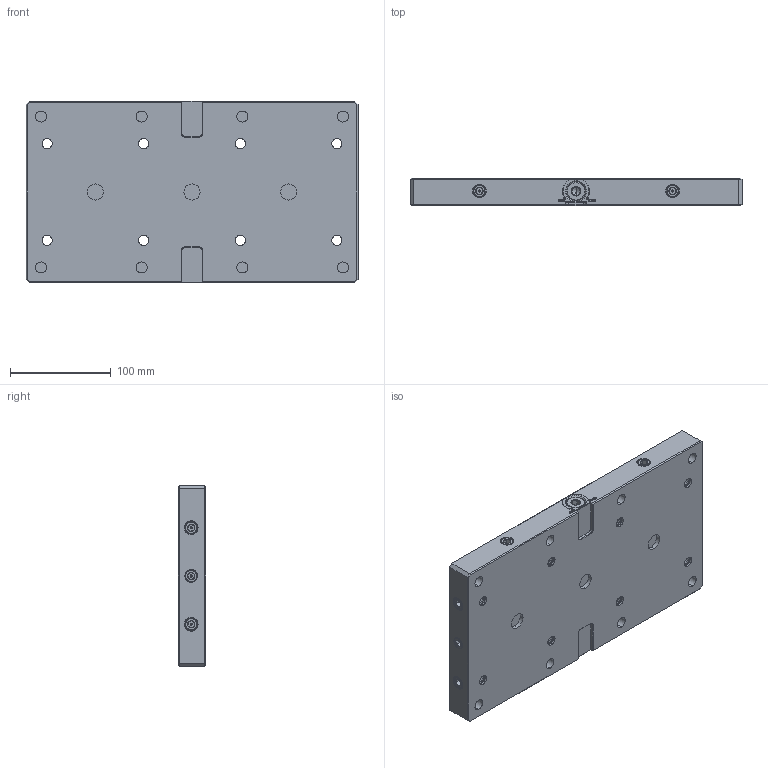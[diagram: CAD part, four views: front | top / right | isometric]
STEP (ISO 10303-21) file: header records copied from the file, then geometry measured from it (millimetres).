
FILE_DESCRIPTION((''),'2;1');
FILE_NAME('TI_WH_96ZPS_S330DNP001_ASM','2026-06-08T13:42:36',('Admin'),(''),'CREO PARAMETRIC BY PTC INC, 2025010','CREO PARAMETRIC BY PTC INC, 2025010','');
FILE_SCHEMA(('CONFIG_CONTROL_DESIGN'));
Length unit declared in the file: millimetre
Products named in the file (24): B40101-00003_-24730001; B11500-00185_O--440001; B11500-00185_O--110001; B11500-00185_O--110002; _30001; B11500-00185_O--200001; B40101-00003_-21280001; B11500-00185_O--220001; B40101-00003_-23230001; B11500-00185_O--270001; B40101-00003_-29100001; B40101-00003_-31810001; 200; B40101-00003_-34560001; B11500-00185_O--360001; F009-0010923B_-1-S0001; B40101-00003_-39180001; B40101-00003_-47750001; B11500-00185_O--540001; B40101-00003_-55230001; B40101-00003_-56400001; NT-S96P330V1_ASM; CAP_1; TI_WH_96ZPS_S330DNP001_ASM
Assembly tree (30 placements, depth 3):
  TI_WH_96ZPS_S330DNP001_ASM
    NT-S96P330V1_ASM
      B40101-00003_-24730001
      B11500-00185_O--440001
      B11500-00185_O--110001
      B11500-00185_O--110002
      _30001
      B11500-00185_O--200001
      B40101-00003_-21280001
      B11500-00185_O--220001
      B40101-00003_-23230001
      B11500-00185_O--270001
      B40101-00003_-29100001
      B40101-00003_-31810001
      200
      B40101-00003_-34560001
      B11500-00185_O--360001
      F009-0010923B_-1-S0001
      B40101-00003_-39180001
      B40101-00003_-47750001
      B11500-00185_O--540001
      B40101-00003_-55230001
      B40101-00003_-56400001
    CAP_1  x8
Bounding box: 330 x 27 x 180 mm (x, y, z)
Volume: 1500416.4 mm3; surface area: 192896.7 mm2
Topology: 29 solids, 29 shells, 1058 faces, 2335 edges, 1384 vertices
Faces by surface type: plane 395, cylinder 300, cone 270, torus 50, extrusion 40, bspline 3
Entity records: 35310 total; most frequent: CARTESIAN_POINT 14334, DIRECTION 4494, ORIENTED_EDGE 4018, EDGE_CURVE 2009, AXIS2_PLACEMENT_3D 1732, VERTEX_POINT 1216, EDGE_LOOP 1063, VECTOR 1030
